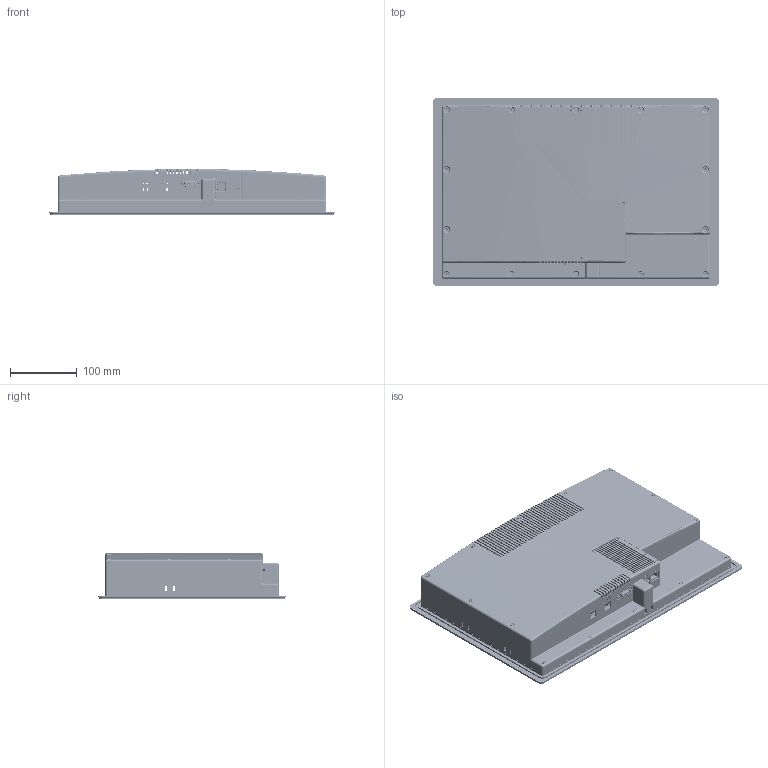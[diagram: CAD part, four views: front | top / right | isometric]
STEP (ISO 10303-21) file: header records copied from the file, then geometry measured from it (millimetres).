
FILE_DESCRIPTION (( 'STEP AP214' ), '1' );
FILE_NAME ('ЛВФБ.421457.003_АСП-15_3D_Rev1.2.STEP', '2024-11-05T06:29:51', ( '' ), ( '' ), 'SwSTEP 2.0', 'SolidWorks 2022', '' );
FILE_SCHEMA (( 'AUTOMOTIVE_DESIGN' ));
Length unit declared in the file: millimetre
Products named in the file (9): MS Controller v2_External; Countersunk Head Cross-Recessed Self Tapping Screw DIN 7982_3.9mmX13mm; heatsink-1225-al-1_00; 15 Body Back_00; MSController with Rock Pi 4_External; 15 Body Front_00; Display 15.6 inch 0802_00; MSController_v3.0_External; ЛВФБ.421457.003_АСП-15_3D_Rev1.2
Assembly tree (21 placements, depth 3):
  ЛВФБ.421457.003_АСП-15_3D_Rev1.2
    15 Body Back_00
    15 Body Front_00
    Display 15.6 inch 0802_00
    MS Controller v2_External
      MSController with Rock Pi 4_External
      MSController_v3.0_External
      heatsink-1225-al-1_00
    Countersunk Head Cross-Recessed Self Tapping Screw DIN 7982_3.9mmX13mm  x14
Bounding box: 430 x 282 x 69 mm (x, y, z)
Volume: 1154497.3 mm3; surface area: 750585.9 mm2
Topology: 26 solids, 31 shells, 7738 faces, 21015 edges, 12850 vertices
Faces by surface type: plane 3076, cylinder 2196, bspline 1584, sphere 508, torus 250, cone 124
Entity records: 275498 total; most frequent: CARTESIAN_POINT 93771, ORIENTED_EDGE 35988, DIRECTION 30006, EDGE_CURVE 18042, VERTEX_POINT 11256, VECTOR 10334, LINE 10334, AXIS2_PLACEMENT_3D 9836
